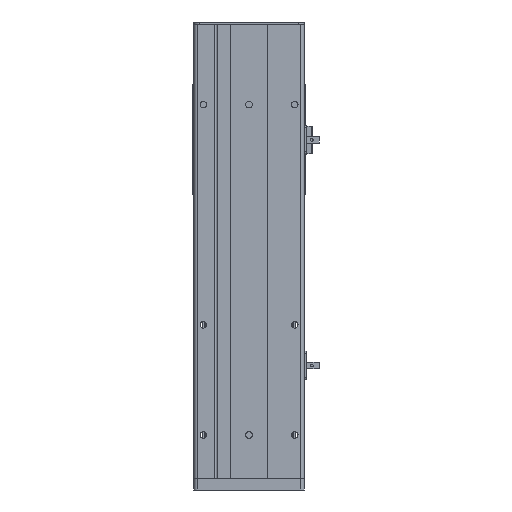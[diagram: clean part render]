
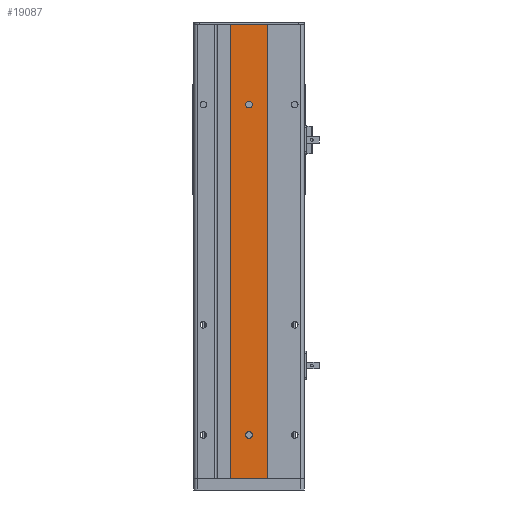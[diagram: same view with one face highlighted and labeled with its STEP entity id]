
A CAD part, front view. The second image highlights one B-rep face of the part: STEP entity #19087.
In plain terms, the highlighted planar face has unit normal (0, -1, 0).
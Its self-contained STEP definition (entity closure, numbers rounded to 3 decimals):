
#3137 = EDGE_CURVE ( 'NONE', #24056, #29912, #26817, .T. ) ;
#4129 = VECTOR ( 'NONE', #8251, 1000. ) ;
#4245 = EDGE_CURVE ( 'NONE', #31101, #20932, #24479, .T. ) ;
#4461 = VERTEX_POINT ( 'NONE', #20249 ) ;
#4663 = EDGE_CURVE ( 'NONE', #4461, #23321, #26733, .T. ) ;
#5540 = EDGE_LOOP ( 'NONE', ( #17425, #18920 ) ) ;
#5977 = EDGE_LOOP ( 'NONE', ( #29780, #21130 ) ) ;
#6296 = CIRCLE ( 'NONE', #7833, 3. ) ;
#6454 = LINE ( 'NONE', #7972, #26644 ) ;
#6470 = CARTESIAN_POINT ( 'NONE',  ( -16.5, 0., -206.5 ) ) ;
#6587 = LINE ( 'NONE', #26140, #25269 ) ;
#7079 = EDGE_CURVE ( 'NONE', #28492, #29912, #6454, .T. ) ;
#7154 = ORIENTED_EDGE ( 'NONE', *, *, #8532, .F. ) ;
#7587 = AXIS2_PLACEMENT_3D ( 'NONE', #22225, #7599, #24610 ) ;
#7599 = DIRECTION ( 'NONE',  ( 0., -1., 0. ) ) ;
#7760 = DIRECTION ( 'NONE',  ( 0., 0., -1. ) ) ;
#7833 = AXIS2_PLACEMENT_3D ( 'NONE', #12709, #12673, #12668 ) ;
#7972 = CARTESIAN_POINT ( 'NONE',  ( 16.5, 0., 206.5 ) ) ;
#8251 = DIRECTION ( 'NONE',  ( 0., 0., -1. ) ) ;
#8284 = CARTESIAN_POINT ( 'NONE',  ( -16.5, 0., 206.5 ) ) ;
#8532 = EDGE_CURVE ( 'NONE', #28163, #28492, #6587, .T. ) ;
#9543 = DIRECTION ( 'NONE',  ( 0., 0., -1. ) ) ;
#9603 = DIRECTION ( 'NONE',  ( 0., -1., 0. ) ) ;
#9672 = CARTESIAN_POINT ( 'NONE',  ( 0., 0., -166.5 ) ) ;
#10355 = CARTESIAN_POINT ( 'NONE',  ( 0., 0., 136.5 ) ) ;
#11772 = CARTESIAN_POINT ( 'NONE',  ( -16.5, 0., -206.5 ) ) ;
#12044 = DIRECTION ( 'NONE',  ( 1., 0., 0. ) ) ;
#12491 = VECTOR ( 'NONE', #12044, 1000. ) ;
#12668 = DIRECTION ( 'NONE',  ( 0., 0., -1. ) ) ;
#12673 = DIRECTION ( 'NONE',  ( 0., -1., 0. ) ) ;
#12709 = CARTESIAN_POINT ( 'NONE',  ( 0., 0., -166.5 ) ) ;
#14469 = CARTESIAN_POINT ( 'NONE',  ( 16.5, 0., 206.5 ) ) ;
#16518 = LINE ( 'NONE', #8284, #4129 ) ;
#17425 = ORIENTED_EDGE ( 'NONE', *, *, #17859, .F. ) ;
#17859 = EDGE_CURVE ( 'NONE', #23321, #4461, #6296, .T. ) ;
#18920 = ORIENTED_EDGE ( 'NONE', *, *, #4663, .F. ) ;
#18934 = FACE_BOUND ( 'NONE', #5977, .T. ) ;
#19087 = ADVANCED_FACE ( 'NONE', ( #30845, #18934, #31471 ), #29513, .F. ) ;
#20021 = ORIENTED_EDGE ( 'NONE', *, *, #28851, .T. ) ;
#20249 = CARTESIAN_POINT ( 'NONE',  ( 0., 0., -163.5 ) ) ;
#20457 = CARTESIAN_POINT ( 'NONE',  ( -16.5, 0., 206.5 ) ) ;
#20932 = VERTEX_POINT ( 'NONE', #27049 ) ;
#21130 = ORIENTED_EDGE ( 'NONE', *, *, #4245, .F. ) ;
#21668 = AXIS2_PLACEMENT_3D ( 'NONE', #9672, #9603, #9543 ) ;
#22225 = CARTESIAN_POINT ( 'NONE',  ( 0., 0., 133.5 ) ) ;
#23321 = VERTEX_POINT ( 'NONE', #24029 ) ;
#24029 = CARTESIAN_POINT ( 'NONE',  ( 0., 0., -169.5 ) ) ;
#24056 = VERTEX_POINT ( 'NONE', #6470 ) ;
#24479 = CIRCLE ( 'NONE', #27647, 3. ) ;
#24610 = DIRECTION ( 'NONE',  ( 0., 0., -1. ) ) ;
#24967 = AXIS2_PLACEMENT_3D ( 'NONE', #29345, #29307, #29274 ) ;
#25269 = VECTOR ( 'NONE', #26248, 1000. ) ;
#25629 = EDGE_LOOP ( 'NONE', ( #26273, #29478, #7154, #20021 ) ) ;
#26140 = CARTESIAN_POINT ( 'NONE',  ( -16.5, 0., 206.5 ) ) ;
#26248 = DIRECTION ( 'NONE',  ( 1., 0., 0. ) ) ;
#26273 = ORIENTED_EDGE ( 'NONE', *, *, #3137, .T. ) ;
#26644 = VECTOR ( 'NONE', #7760, 1000. ) ;
#26733 = CIRCLE ( 'NONE', #21668, 3. ) ;
#26817 = LINE ( 'NONE', #11772, #12491 ) ;
#27049 = CARTESIAN_POINT ( 'NONE',  ( 0., 0., 130.5 ) ) ;
#27647 = AXIS2_PLACEMENT_3D ( 'NONE', #30668, #30481, #30473 ) ;
#28163 = VERTEX_POINT ( 'NONE', #20457 ) ;
#28248 = CARTESIAN_POINT ( 'NONE',  ( 16.5, 0., -206.5 ) ) ;
#28492 = VERTEX_POINT ( 'NONE', #14469 ) ;
#28851 = EDGE_CURVE ( 'NONE', #28163, #24056, #16518, .T. ) ;
#29274 = DIRECTION ( 'NONE',  ( 0., 0., 1. ) ) ;
#29307 = DIRECTION ( 'NONE',  ( 0., 1., 0. ) ) ;
#29345 = CARTESIAN_POINT ( 'NONE',  ( -16.5, 0., 206.5 ) ) ;
#29478 = ORIENTED_EDGE ( 'NONE', *, *, #7079, .F. ) ;
#29513 = PLANE ( 'NONE',  #24967 ) ;
#29539 = CIRCLE ( 'NONE', #7587, 3. ) ;
#29629 = EDGE_CURVE ( 'NONE', #20932, #31101, #29539, .T. ) ;
#29780 = ORIENTED_EDGE ( 'NONE', *, *, #29629, .F. ) ;
#29912 = VERTEX_POINT ( 'NONE', #28248 ) ;
#30473 = DIRECTION ( 'NONE',  ( 0., 0., -1. ) ) ;
#30481 = DIRECTION ( 'NONE',  ( 0., -1., 0. ) ) ;
#30668 = CARTESIAN_POINT ( 'NONE',  ( 0., 0., 133.5 ) ) ;
#30845 = FACE_BOUND ( 'NONE', #5540, .T. ) ;
#31101 = VERTEX_POINT ( 'NONE', #10355 ) ;
#31471 = FACE_OUTER_BOUND ( 'NONE', #25629, .T. ) ;
